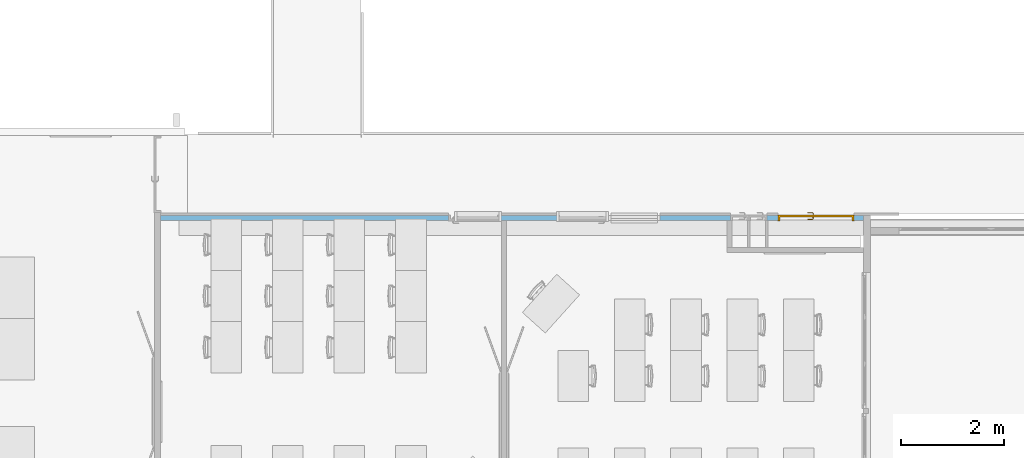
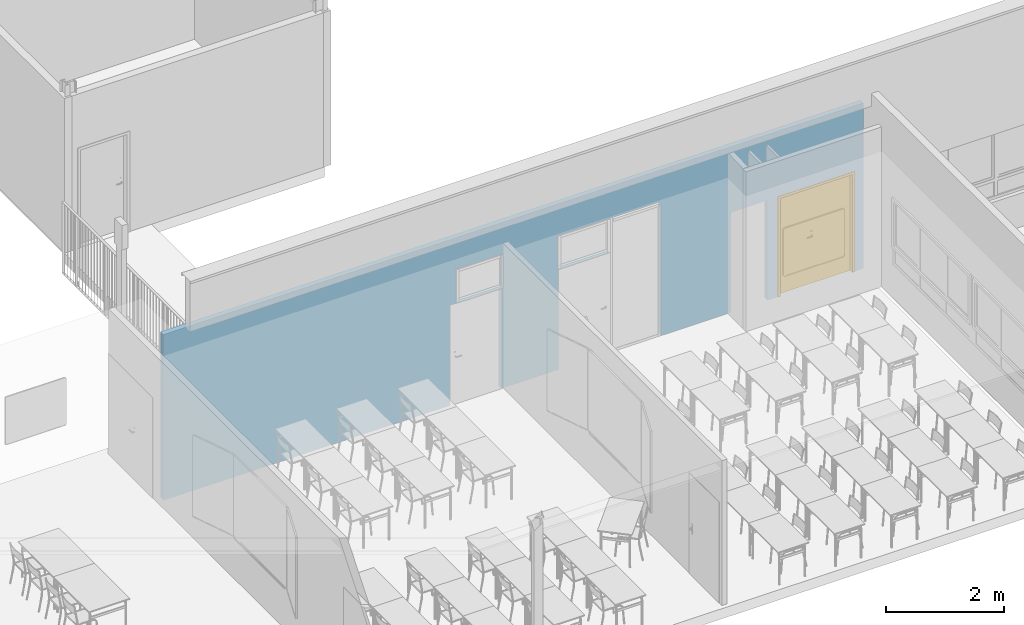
# One storey, part 20 of 44: 1 door, 8 openings, plus 1 element that does not belong to this part.
"""IFC2X3 building model written with IfcOpenShell, lengths in centimetres."""

from ifc_helpers import new_model, entity, si_unit, converted_unit, derived_unit, direction, frame, frame_2d, origin, place, context, subcontext, project, spatial, rectangle, extrude, faceted_brep, source, transform, mapped, material, material_list, layer, layer_set, layer_usage, type_object, type_shapes, element, fill, save


model = new_model("IFC2X3")

# Units and contexts
model_context = context("Model", 3, precision=0.001, world=origin(), true_north=direction((6.12303176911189e-17, 1.0)))
body_context = subcontext(model_context, "Body", "Model", "MODEL_VIEW")
ifc_project = project(units=[si_unit("LENGTHUNIT", "METRE", prefix="CENTI"), si_unit("AREAUNIT", "SQUARE_METRE"), si_unit("VOLUMEUNIT", "CUBIC_METRE"), converted_unit("PLANEANGLEUNIT", "DEGREE", entity("IfcRatioMeasure", 0.0174532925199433), si_unit("PLANEANGLEUNIT", "RADIAN"), dimensions=[0, 0, 0, 0, 0, 0, 0]), si_unit("MASSUNIT", "GRAM", prefix="KILO"), si_unit("TIMEUNIT", "SECOND"), si_unit("FREQUENCYUNIT", "HERTZ"), si_unit("THERMODYNAMICTEMPERATUREUNIT", "DEGREE_CELSIUS"), derived_unit("THERMALTRANSMITTANCEUNIT", [(si_unit("MASSUNIT", "GRAM", prefix="KILO"), 1), (si_unit("THERMODYNAMICTEMPERATUREUNIT", "KELVIN"), -1), (si_unit("TIMEUNIT", "SECOND"), -3)]), derived_unit("VOLUMETRICFLOWRATEUNIT", [(si_unit("LENGTHUNIT", "METRE"), 3), (si_unit("TIMEUNIT", "SECOND"), -1)]), si_unit("ELECTRICCURRENTUNIT", "AMPERE"), si_unit("ELECTRICVOLTAGEUNIT", "VOLT"), si_unit("POWERUNIT", "WATT"), si_unit("FORCEUNIT", "NEWTON", prefix="KILO"), si_unit("ILLUMINANCEUNIT", "LUX"), si_unit("LUMINOUSFLUXUNIT", "LUMEN"), si_unit("LUMINOUSINTENSITYUNIT", "CANDELA"), derived_unit("USERDEFINED", [(si_unit("MASSUNIT", "GRAM", prefix="KILO"), -1), (si_unit("LENGTHUNIT", "METRE"), -2), (si_unit("TIMEUNIT", "SECOND"), 3), (si_unit("LUMINOUSFLUXUNIT", "LUMEN"), 1)]), derived_unit("LINEARVELOCITYUNIT", [(si_unit("LENGTHUNIT", "METRE"), 1), (si_unit("TIMEUNIT", "SECOND"), -1)]), si_unit("PRESSUREUNIT", "PASCAL"), derived_unit("USERDEFINED", [(si_unit("LENGTHUNIT", "METRE"), -2), (si_unit("MASSUNIT", "GRAM", prefix="KILO"), 1), (si_unit("TIMEUNIT", "SECOND"), -2)])], contexts=[model_context])

# Site, building, storey
site_placement = place(None, frame((8.62739174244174, -249.285249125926, 0.0)))
site = spatial("IfcSite", under=ifc_project, at=site_placement, Name="Default", CompositionType="ELEMENT")
building_placement = place(site_placement, origin())
building = spatial("IfcBuilding", under=site, at=building_placement, CompositionType="ELEMENT")
storey_placement = place(building_placement, frame((0.0, 0.0, 343.0)))
storey = spatial("IfcBuildingStorey", under=building, at=storey_placement, Name="R+1", CompositionType="ELEMENT", Elevation=343.0)

# Wall, openings, door
ifc_material_1 = material(Name="Plâtre EXISTANT")
ifc_layer = layer(ifc_material_1, 10.0)
ifc_layer_set = layer_set([ifc_layer], Name="Mur de base:PLA EXISTANT 10")
ifc_layer_usage = layer_usage(ifc_layer_set, "AXIS2", "POSITIVE", -5.0)
wall_type = type_object("IfcWallType", Name="Mur de base:PLA EXISTANT 10", PredefinedType="STANDARD", material=ifc_layer_set)
wall_placement = place(storey_placement, frame((803.905471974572, 770.0, 0.0)))
wall = element("IfcWallStandardCase", 1, at=wall_placement, inside=storey, type_object=wall_type, material=ifc_layer_usage, Name="Mur de base:PLA EXISTANT 10", ObjectType="Mur de base:PLA EXISTANT 10", context=body_context, shape_type="SweptSolid", body=[
    extrude(rectangle(XDim=1370.99935583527, YDim=10.0000000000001, at=frame_2d((685.499677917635, 2.22044604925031e-15), x_axis=(-1.0, 0.0))), origin(), (0.0, 0.0, 1.0), 343.000000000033),
])
opening_1_placement = place(wall_placement, origin())
element("IfcOpeningElement", 2, at=opening_1_placement, cuts=wall, Name="Mur de base:PLA EXISTANT 10", ObjectType="Opening", context=body_context, shape_type="SweptSolid", body=[
    extrude(rectangle(XDim=69.4999999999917, YDim=102.0, at=frame_2d((-5.32907051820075e-14, 0.0), x_axis=(1.0, 0.0))), frame((822.999355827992, -20.2399999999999, 243.249999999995), z_axis=(0.0, 1.0, 0.0), x_axis=(0.0, 0.0, 1.0)), (0.0, 0.0, 1.0), 40.48),
])
opening_2_placement = place(wall_placement, origin())
element("IfcOpeningElement", 3, at=opening_2_placement, cuts=wall, Name="Mur de base:PLA EXISTANT 10", ObjectType="Opening", context=body_context, shape_type="SweptSolid", body=[
    extrude(rectangle(XDim=277.999999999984, YDim=100.0, at=frame_2d((2.16715534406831e-13, 0.0), x_axis=(0.0, 1.0))), frame((923.999355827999, -20.2399999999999, 139.0), z_axis=(0.0, 1.0, 0.0), x_axis=(-1.0, 0.0, 0.0)), (0.0, 0.0, 1.0), 40.48),
])
opening_3_placement = place(wall_placement, origin())
element("IfcOpeningElement", 4, at=opening_3_placement, cuts=wall, Name="Mur de base:PLA EXISTANT 10", ObjectType="Opening", context=body_context, shape_type="SweptSolid", body=[
    extrude(rectangle(XDim=69.4999999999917, YDim=91.9506441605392, at=frame_2d((-2.1316282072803e-13, -5.32907051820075e-14), x_axis=(0.0, 1.0))), frame((619.02467791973, -20.2399999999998, 243.249999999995), z_axis=(0.0, 1.0, 0.0), x_axis=(-1.0, 0.0, 0.0)), (0.0, 0.0, 1.0), 40.48),
])
opening_4_placement = place(wall_placement, frame((873.999355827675, 5.0, 0.0)))
element("IfcOpeningElement", 5, at=opening_4_placement, cuts=wall, Name="Simple(R)_bois_mu:93 x 204 cm:1", ObjectType="Opening", context=body_context, shape_type="SweptSolid", body=[
    extrude(rectangle(XDim=207.499999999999, YDim=99.9999999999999, at=frame_2d((103.749999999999, 50.0), x_axis=(1.0, 0.0))), frame((0.0, 0.0, 0.0), z_axis=(0.0, -1.0, 0.0), x_axis=(0.0, 0.0, 1.0)), (0.0, 0.0, 1.0), 10.0),
])
opening_5_placement = place(wall_placement, frame((661.524677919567, 5.0, 0.0)))
element("IfcOpeningElement", 6, at=opening_5_placement, cuts=wall, Name="Simple(R)_bois_mu:93 x 204 cm:1", ObjectType="Opening", context=body_context, shape_type="SweptSolid", body=[
    extrude(rectangle(XDim=207.499999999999, YDim=99.9999999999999, at=frame_2d((103.749999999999, 50.0), x_axis=(1.0, 0.0))), frame((0.0, 0.0, 0.0), z_axis=(0.0, -1.0, 0.0), x_axis=(0.0, 0.0, 1.0)), (0.0, 0.0, 1.0), 10.0),
])
opening_6_placement = place(wall_placement, frame((1146.99935582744, -5.0, 0.0)))
element("IfcOpeningElement", 7, at=opening_6_placement, cuts=wall, Name="Simple(R)_bois_Existant_mu:30 x 204 cm:1", ObjectType="Opening", context=body_context, shape_type="SweptSolid", body=[
    extrude(rectangle(XDim=206.999999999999, YDim=36.0, at=frame_2d((103.499999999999, 18.0000000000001), x_axis=(1.0, 0.0))), frame((0.0, 0.0, 0.0), z_axis=(0.0, 1.0, 0.0), x_axis=(0.0, 0.0, 1.0)), (0.0, 0.0, 1.0), 10.0),
])
opening_7_placement = place(wall_placement, frame((1111.99935583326, -5.0, 0.0)))
element("IfcOpeningElement", 8, at=opening_7_placement, cuts=wall, Name="Simple(R)_bois_Existant_mu:30 x 204 cm:1", ObjectType="Opening", context=body_context, shape_type="SweptSolid", body=[
    extrude(rectangle(XDim=206.999999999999, YDim=36.0, at=frame_2d((103.499999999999, 18.0000000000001), x_axis=(1.0, 0.0))), frame((0.0, 0.0, 0.0), z_axis=(0.0, 1.0, 0.0), x_axis=(0.0, 0.0, 1.0)), (0.0, 0.0, 1.0), 10.0),
])
opening_8_placement = place(wall_placement, frame((1203.99935583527, -5.0, 0.0)))
opening_8 = element("IfcOpeningElement", 9, at=opening_8_placement, cuts=wall, Name="Double(R)_bois_Existant_mu:143 x 204 cm:1", ObjectType="Opening", context=body_context, shape_type="SweptSolid", body=[
    extrude(rectangle(XDim=206.999999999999, YDim=149.0, at=frame_2d((103.499999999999, 74.5), x_axis=(1.0, 0.0))), frame((0.0, 0.0, 0.0), z_axis=(0.0, 1.0, 0.0), x_axis=(0.0, 0.0, 1.0)), (0.0, 0.0, 1.0), 10.0),
])
ifc_material_2 = material(Name="Porte - Poignée")
ifc_material_3 = material(Name="Porte - Cadre")
ifc_material_4 = material(Name="Porte - Panneau")
ifc_material_list_1 = material_list([ifc_material_2, ifc_material_3, ifc_material_4])
ifc_material_list_2 = material_list([ifc_material_2, ifc_material_3, ifc_material_4])
door_style = type_object("IfcDoorStyle", Name="143 x 204 cm", ConstructionType="NOTDEFINED", OperationType="DOUBLE_DOOR_SINGLE_SWING", ParameterTakesPrecedence=False, Sizeable=False, material=ifc_material_list_2)
shared_shape = source(origin(), body_context, "Body", "Brep", [
    faceted_brep([(79.7974701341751, 3.69999999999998, 100.778044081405), (79.3999999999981, 3.69999999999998, 100.699999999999), (79.3999999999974, 3.69999999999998, 99.2999999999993), (79.7974701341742, 3.69999999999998, 99.2219559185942), (80.2025298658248, 3.69999999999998, 99.2219559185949), (80.6000000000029, 3.69999999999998, 99.3000000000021), (80.6000000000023, 3.69999999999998, 100.699999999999), (80.2025298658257, 3.69999999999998, 100.778044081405), (80.6000000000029, 5.94852045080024, 99.3000000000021), (80.6000000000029, 5.94852045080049, 100.699999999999), (80.2025298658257, 6.1131579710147, 100.778044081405), (81.5838906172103, 7.49451872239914, 100.778044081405), (81.4161093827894, 7.89957845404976, 100.778044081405), (79.7974701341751, 6.2809392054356, 100.778044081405), (90.5684749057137, 6.84673156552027, 100.778044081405), (90.8548953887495, 7.13315204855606, 100.778044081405), (90.0884689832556, 7.89957845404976, 100.778044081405), (89.9206877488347, 7.49451872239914, 100.778044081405), (79.3999999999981, 6.44557672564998, 100.699999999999), (79.3999999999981, 6.44557672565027, 99.2999999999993), (79.7974701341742, 6.28093920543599, 99.2219559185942), (81.416109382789, 7.8995784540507, 99.2219559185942), (81.5838906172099, 7.49451872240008, 99.2219559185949), (80.2025298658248, 6.11315797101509, 99.2219559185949), (90.8548953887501, 7.1331520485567, 99.2219559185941), (90.5684749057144, 6.84673156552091, 99.2219559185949), (89.9206877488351, 7.49451872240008, 99.2219559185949), (90.088468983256, 7.8995784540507, 99.2219559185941), (81.7485281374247, 7.09704858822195, 99.3000000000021), (81.7485281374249, 7.09704858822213, 100.699999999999), (81.2514718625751, 8.29704858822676, 100.699999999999), (81.2514718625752, 8.29704858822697, 99.2999999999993), (85.7522904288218, 7.09704858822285, 99.3000000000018), (89.7560502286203, 7.09704858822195, 99.3000000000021), (89.7560502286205, 7.09704858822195, 100.699999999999), (85.7522891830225, 7.09704858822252, 100.699999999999), (85.7522891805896, 7.71249275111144, 100.787811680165), (90.2531065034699, 8.29704858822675, 100.699999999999), (86.260057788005, 8.29704858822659, 100.699999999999), (90.2531065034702, 8.29704858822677, 99.2999999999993), (85.2445206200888, 8.29704858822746, 99.2999999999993), (85.7522892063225, 7.71249274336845, 99.2121883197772), (90.2874210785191, 6.56567773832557, 99.3000000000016), (91.1359492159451, 7.41420587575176, 99.2999999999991), (91.1359492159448, 7.4142058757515, 100.699999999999), (90.2874210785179, 6.5656777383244, 100.699999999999)], [[[0, 1, 2, 3, 4, 5, 6, 7]], [[6, 5, 8, 9]], [[9, 10, 7, 6]], [[10, 11, 12, 13, 0, 7]], [[14, 15, 16, 17]], [[13, 18, 1, 0]], [[2, 1, 18, 19]], [[19, 20, 3, 2]], [[20, 21, 22, 23, 4, 3]], [[24, 25, 26, 27]], [[23, 8, 5, 4]], [[9, 8, 28, 29]], [[29, 11, 10, 9]], [[12, 30, 18, 13]], [[19, 18, 30, 31]], [[31, 21, 20, 19]], [[22, 28, 8, 23]], [[29, 28, 32, 33, 34, 35]], [[11, 35, 36]], [[16, 37, 38]], [[30, 12, 38]], [[38, 12, 36]], [[36, 35, 17]], [[17, 16, 36]], [[35, 11, 29]], [[34, 17, 35]], [[11, 36, 12]], [[38, 36, 16]], [[31, 30, 38, 37, 39, 40]], [[40, 41, 21]], [[41, 40, 27]], [[21, 31, 40]], [[39, 27, 40]], [[41, 32, 22]], [[22, 21, 41]], [[26, 32, 41]], [[28, 22, 32]], [[32, 26, 33]], [[26, 41, 27]], [[42, 25, 24, 43, 44, 15, 14, 45]], [[34, 33, 42, 45]], [[45, 14, 17, 34]], [[15, 44, 37, 16]], [[39, 37, 44, 43]], [[43, 24, 27, 39]], [[25, 42, 33, 26]]]),
    faceted_brep([(79.7974701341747, -1.30000000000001, 100.778044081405), (80.2025298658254, -1.30000000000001, 100.778044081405), (80.6000000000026, -1.30000000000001, 100.699999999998), (80.600000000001, -1.30000000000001, 99.3000000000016), (80.2025298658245, -1.30000000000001, 99.2219559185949), (79.7974701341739, -1.30000000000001, 99.2219559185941), (79.3999999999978, -1.30000000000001, 99.2999999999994), (79.3999999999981, -1.30000000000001, 100.699999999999), (79.3999999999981, -4.06509507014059, 100.699999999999), (79.7974701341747, -3.90045754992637, 100.778044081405), (81.4023585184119, -5.50534593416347, 100.778044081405), (81.5701397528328, -5.10028620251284, 100.778044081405), (80.2025298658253, -3.73267631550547, 100.778044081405), (90.8521810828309, -4.73891952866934, 100.778044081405), (90.5657605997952, -4.4524990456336, 100.778044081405), (89.917973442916, -5.10028620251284, 100.778044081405), (90.0857546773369, -5.50534593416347, 100.778044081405), (80.6000000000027, -3.56803879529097, 100.699999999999), (80.6000000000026, -3.56803879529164, 99.3000000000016), (80.2025298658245, -3.7326763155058, 99.2219559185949), (81.5701397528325, -5.10028620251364, 99.2219559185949), (81.4023585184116, -5.50534593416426, 99.2219559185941), (79.7974701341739, -3.9004575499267, 99.2219559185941), (90.5657605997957, -4.45249904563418, 99.2219559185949), (90.8521810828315, -4.73891952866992, 99.2219559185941), (90.0857546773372, -5.50534593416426, 99.2219559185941), (89.9179734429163, -5.10028620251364, 99.2219559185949), (79.3999999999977, -4.06509507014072, 99.2999999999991), (81.2377209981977, -5.90281606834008, 100.699999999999), (81.7347772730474, -4.70281606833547, 100.699999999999), (81.7347772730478, -4.70281606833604, 99.3000000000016), (81.2377209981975, -5.90281606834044, 99.2999999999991), (85.2307697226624, -5.90281606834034, 100.699999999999), (85.7440566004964, -5.31828027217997, 100.787811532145), (90.2503921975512, -5.90281606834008, 100.699999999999), (85.7440565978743, -4.70281606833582, 100.699999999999), (89.7533359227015, -4.70281606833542, 100.699999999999), (89.7533359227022, -4.70281606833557, 99.3000000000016), (85.7440563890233, -4.70281606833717, 99.3000000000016), (85.7440565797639, -5.31828027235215, 99.2121884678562), (90.2503921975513, -5.90281606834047, 99.2999999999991), (86.2573433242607, -5.90281606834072, 99.2999999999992), (90.2847067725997, -4.1714452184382, 100.699999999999), (91.1332349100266, -5.01997335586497, 100.699999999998), (91.133234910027, -5.01997335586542, 99.2999999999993), (90.2847067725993, -4.17144521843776, 99.3000000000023)], [[[0, 1, 2, 3, 4, 5, 6, 7]], [[8, 9, 0, 7]], [[9, 10, 11, 12, 1, 0]], [[13, 14, 15, 16]], [[12, 17, 2, 1]], [[3, 2, 17, 18]], [[18, 19, 4, 3]], [[19, 20, 21, 22, 5, 4]], [[23, 24, 25, 26]], [[22, 27, 6, 5]], [[7, 6, 27, 8]], [[28, 10, 9, 8]], [[11, 29, 17, 12]], [[18, 17, 29, 30]], [[30, 20, 19, 18]], [[21, 31, 27, 22]], [[8, 27, 31, 28]], [[32, 33, 10]], [[33, 32, 16]], [[10, 28, 32]], [[34, 16, 32]], [[33, 35, 11]], [[11, 10, 33]], [[15, 35, 33]], [[29, 11, 35]], [[35, 15, 36]], [[15, 33, 16]], [[30, 29, 35, 36, 37, 38]], [[20, 38, 39]], [[25, 40, 41]], [[31, 21, 41]], [[41, 21, 39]], [[39, 38, 26]], [[26, 25, 39]], [[38, 20, 30]], [[37, 26, 38]], [[20, 39, 21]], [[41, 39, 25]], [[28, 31, 41, 40, 34, 32]], [[42, 14, 13, 43, 44, 24, 23, 45]], [[43, 13, 16, 34]], [[14, 42, 36, 15]], [[37, 36, 42, 45]], [[45, 23, 26, 37]], [[24, 44, 40, 25]], [[34, 40, 44, 43]]]),
    faceted_brep([(81.0352761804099, 3.19999999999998, 86.6003983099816), (82.0, 3.19999999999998, 87.0), (82.0, 3.19999999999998, 108.0), (81.0352761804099, 3.19999999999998, 108.399601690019), (80.0, 3.19999999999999, 108.535898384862), (78.9647238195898, 3.19999999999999, 108.399601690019), (78.0, 3.19999999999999, 108.0), (78.0, 3.19999999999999, 87.0), (78.9647238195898, 3.19999999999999, 86.6003983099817), (80.0, 3.19999999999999, 86.4641016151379), (81.0352761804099, 3.69999999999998, 108.399601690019), (82.0, 3.69999999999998, 108.0), (82.0, 3.69999999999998, 87.0), (81.0352761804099, 3.69999999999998, 86.6003983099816), (80.0, 3.69999999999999, 86.4641016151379), (78.9647238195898, 3.69999999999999, 86.6003983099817), (78.0, 3.69999999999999, 87.0), (78.0, 3.69999999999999, 108.0), (78.9647238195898, 3.69999999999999, 108.399601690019), (80.0, 3.69999999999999, 108.535898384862)], [[[0, 1, 2, 3, 4, 5, 6, 7, 8, 9]], [[10, 11, 12, 13, 14, 15, 16, 17, 18, 19]], [[11, 10, 3, 2]], [[3, 10, 19, 4]], [[19, 18, 5, 4]], [[18, 17, 6, 5]], [[7, 6, 17, 16]], [[16, 15, 8, 7]], [[8, 15, 14, 9]], [[14, 13, 0, 9]], [[13, 12, 1, 0]], [[2, 1, 12, 11]]]),
    faceted_brep([(81.0352761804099, -1.30000000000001, 86.6003983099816), (82.0, -1.30000000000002, 87.0), (82.0, -1.30000000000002, 108.0), (81.0352761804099, -1.30000000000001, 108.399601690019), (80.0, -1.30000000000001, 108.535898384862), (78.9647238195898, -1.30000000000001, 108.399601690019), (78.0, -1.3, 108.0), (78.0, -1.3, 87.0), (78.9647238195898, -1.30000000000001, 86.6003983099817), (80.0, -1.30000000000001, 86.4641016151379), (81.0352761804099, -0.800000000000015, 108.399601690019), (82.0, -0.800000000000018, 108.0), (82.0, -0.800000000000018, 87.0), (81.0352761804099, -0.800000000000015, 86.6003983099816), (80.0, -0.800000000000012, 86.4641016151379), (78.9647238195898, -0.800000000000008, 86.6003983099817), (78.0, -0.800000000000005, 87.0), (78.0, -0.800000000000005, 108.0), (78.9647238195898, -0.800000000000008, 108.399601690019), (80.0, -0.800000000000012, 108.535898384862)], [[[0, 1, 2, 3, 4, 5, 6, 7, 8, 9]], [[10, 11, 12, 13, 14, 15, 16, 17, 18, 19]], [[16, 15, 8, 7]], [[8, 15, 14, 9]], [[14, 13, 0, 9]], [[13, 12, 1, 0]], [[2, 1, 12, 11]], [[11, 10, 3, 2]], [[3, 10, 19, 4]], [[19, 18, 5, 4]], [[18, 17, 6, 5]], [[7, 6, 17, 16]]]),
    faceted_brep([(0.0, 0.0, 0.0), (0.0, 10.0, 0.0), (-1.0, 10.0, 0.0), (-1.0, 10.8000000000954, 0.0), (4.0, 10.8000000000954, 0.0), (4.0, 3.2, 0.0), (3.0, 3.2, 0.0), (3.0, -0.799999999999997, 0.0), (-1.0, -0.799999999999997, 0.0), (-1.0, 0.0, 0.0), (0.0, 0.0, 207.0), (0.0, 10.0, 207.0), (149.0, 10.0, 207.0), (149.0, 10.0, 0.0), (150.0, 10.0, 0.0), (150.0, 10.0, 208.0), (-1.0, 10.0, 208.0), (-1.0, 10.8000000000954, 208.0), (150.0, 10.8000000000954, 208.0), (150.0, 10.8000000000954, 0.0), (145.0, 10.8000000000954, 0.0), (145.0, 10.8000000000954, 203.0), (4.0, 10.8000000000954, 203.0), (4.0, 3.2, 203.0), (145.0, 3.2, 203.0), (145.0, 3.2, 0.0), (146.0, 3.2, 0.0), (146.0, 3.2, 204.0), (3.0, 3.2, 204.0), (3.0, -0.799999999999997, 204.0), (146.0, -0.799999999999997, 204.0), (146.0, -0.799999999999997, 0.0), (150.0, -0.799999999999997, 0.0), (150.0, -0.799999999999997, 208.0), (-1.0, -0.799999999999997, 208.0), (-1.0, 0.0, 208.0), (150.0, 0.0, 208.0), (150.0, 0.0, 0.0), (149.0, 0.0, 0.0), (149.0, 0.0, 207.0)], [[[0, 1, 2, 3, 4, 5, 6, 7, 8, 9]], [[1, 0, 10, 11]], [[2, 1, 11, 12, 13, 14, 15, 16]], [[3, 2, 16, 17]], [[4, 3, 17, 18, 19, 20, 21, 22]], [[5, 4, 22, 23]], [[6, 5, 23, 24, 25, 26, 27, 28]], [[7, 6, 28, 29]], [[8, 7, 29, 30, 31, 32, 33, 34]], [[9, 8, 34, 35]], [[0, 9, 35, 36, 37, 38, 39, 10]], [[12, 39, 38, 13]], [[38, 37, 32, 31, 26, 25, 20, 19, 14, 13]], [[18, 15, 14, 19]], [[24, 21, 20, 25]], [[30, 27, 26, 31]], [[36, 33, 32, 37]], [[11, 10, 39, 12]], [[17, 16, 15, 18]], [[23, 22, 21, 24]], [[29, 28, 27, 30]], [[35, 34, 33, 36]]]),
    faceted_brep([(146.0, -0.799999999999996, 0.0), (146.0, -0.799999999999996, 204.0), (74.4999999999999, -0.799999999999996, 204.0), (74.4999999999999, -0.799999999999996, 0.0), (146.0, 3.2, 0.0), (74.4999999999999, 3.2, 0.0), (74.4999999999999, 3.2, 204.0), (146.0, 3.2, 204.0)], [[[0, 1, 2, 3]], [[4, 5, 6, 7]], [[1, 0, 4, 7]], [[2, 1, 7, 6]], [[3, 2, 6, 5]], [[0, 3, 5, 4]]]),
    faceted_brep([(3.0, -0.799999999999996, 204.0), (3.0, -0.799999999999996, 0.0), (74.4999999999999, -0.799999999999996, 0.0), (74.4999999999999, -0.799999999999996, 204.0), (3.0, 3.2, 204.0), (74.4999999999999, 3.2, 204.0), (74.4999999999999, 3.2, 0.0), (3.0, 3.2, 0.0)], [[[0, 1, 2, 3]], [[4, 5, 6, 7]], [[1, 0, 4, 7]], [[2, 1, 7, 6]], [[3, 2, 6, 5]], [[0, 3, 5, 4]]]),
])
type_shapes(door_style, [shared_shape])
door_placement = place(opening_8_placement, frame((149.0, 10.0, 0.0), z_axis=(0.0, 0.0, 1.0), x_axis=(-1.0, 0.0, 0.0)))
door = element("IfcDoor", 10, at=door_placement, inside=storey, type_object=door_style, material=ifc_material_list_1, Name="Double(R)_bois_Existant_mu:143 x 204 cm", ObjectType="143 x 204 cm", OverallHeight=206.999999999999, OverallWidth=149.0, context=body_context, shape_type="MappedRepresentation", body=[
    mapped(shared_shape, transform((0.0, 0.0, 0.0), scale=1.0)),
])
fill(opening_8, door)

save(model, "model.ifc")
